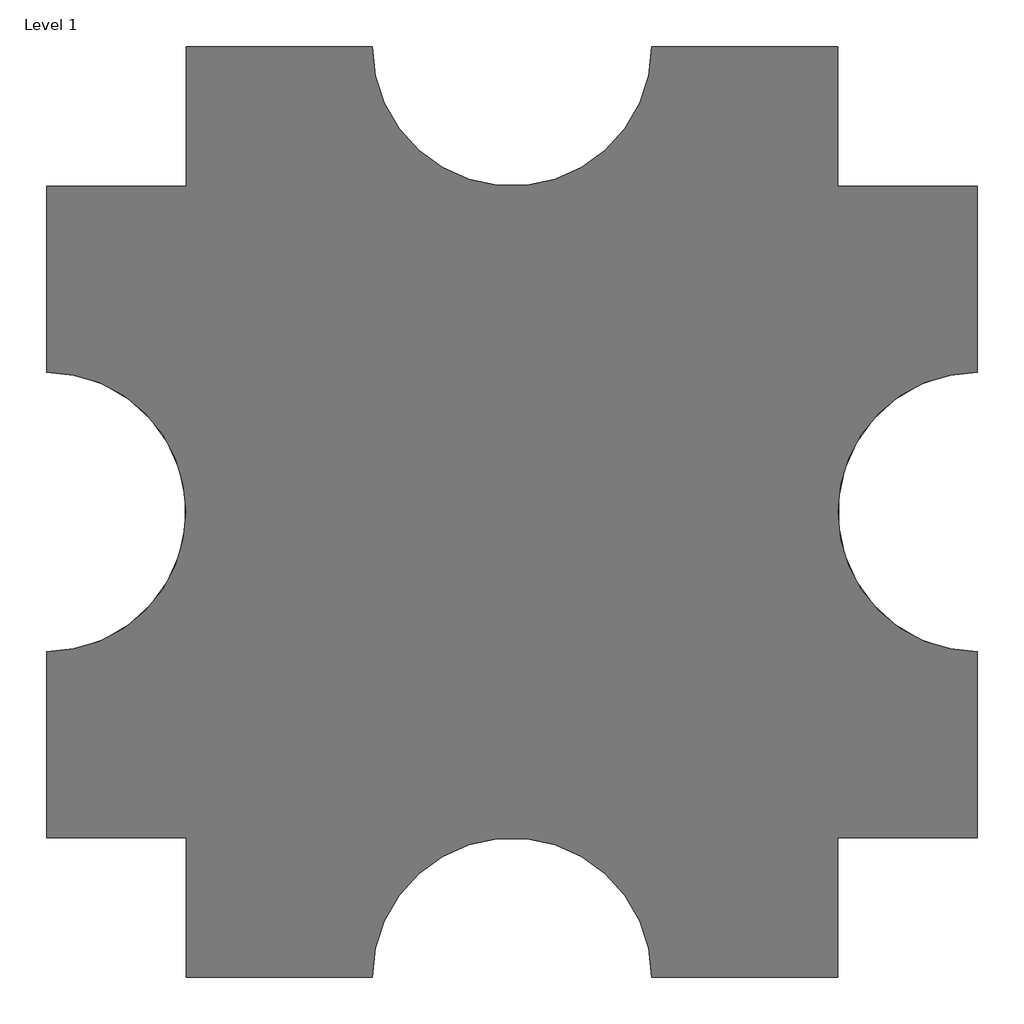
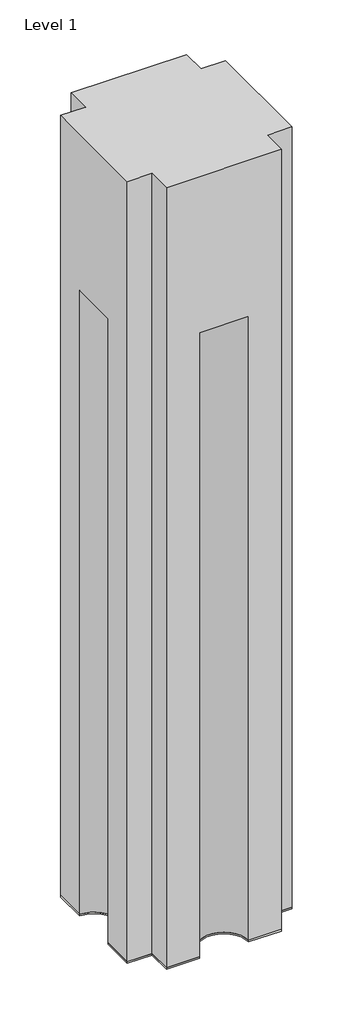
# One storey: 1 proxy, 1 slab.
"""IFC4 building model written with IfcOpenShell, lengths in millimetres."""

from ifc_helpers import new_model, si_unit, point, frame, frame_2d, origin, place, context, project, spatial, polyline, circle_curve, trimmed, segment, composite_curve, outline, extrude, element, save
from ifc_brep_helpers import plane_surface, revolved_surface, advanced_brep

model = new_model("IFC4")

# Units and contexts
model_context = context("Model", 3, world=origin())
ifc_project = project(units=[si_unit("LENGTHUNIT", "METRE", prefix="MILLI")], contexts=[model_context])

# Site, building, storey
site = spatial("IfcSite", under=ifc_project)
building = spatial("IfcBuilding", under=site)
storey = spatial("IfcBuildingStorey", under=building, Name="Level 1", Elevation=0.0)

# Proxy
placement = place(None, origin())
element("IfcBuildingElementProxy", 1, Name="Mass 1 : Mass 1", ObjectType="Mass 1 : Mass 1", at=placement, inside=storey, context=model_context, shape_type="AdvancedBrep", body=[
    advanced_brep(
    [(-7150.3629456, 4479.6634547, 152400.0), (-11722.3629456, 4479.6634547, 152400.0), (-11722.3629456, -16856.3365453, 152400.0), (-7150.3629456, -16856.3365453, 152400.0), (-7150.3629456, -21428.3365453, 152400.0), (14185.6370544, -21428.3365453, 152400.0), (14185.6370544, -16856.3365453, 152400.0), (18757.6370544, -16856.3365453, 152400.0), (18757.6370544, 4479.6634547, 152400.0), (14185.6370544, 4479.6634547, 152400.0), (14185.6370544, 9051.6634547, 152400.0), (-7150.3629456, 9051.6634547, 152400.0), (-7150.3629456, 4479.6634547, 0.0), (-7150.3629456, 9051.6634547, 0.0), (-1054.3629456, 9051.6634547, 0.0), (8089.6370544, 9051.6634547, 0.0), (14185.6370544, 9051.6634547, 0.0), (14185.6370544, 4479.6634547, 0.0), (18757.6370544, 4479.6634547, 0.0), (18757.6370544, -1616.3365453, 0.0), (18757.6370544, -10760.3365453, 0.0), (18757.6370544, -16856.3365453, 0.0), (14185.6370544, -16856.3365453, 0.0), (14185.6370544, -21428.3365453, 0.0), (8089.6370544, -21428.3365453, 0.0), (-1054.3629456, -21428.3365453, 0.0), (-7150.3629456, -21428.3365453, 0.0), (-7150.3629456, -16856.3365453, 0.0), (-11722.3629456, -16856.3365453, 0.0), (-11722.3629456, -10760.3365453, 0.0), (-11722.3629456, -1616.3365453, 0.0), (-11722.3629456, 4479.6634547, 0.0), (-11722.3629456, -1616.3365453, 121920.0), (-11722.3629456, -10760.3365453, 121920.0), (-1054.3629456, -21428.3365453, 121920.0), (8089.6370544, -21428.3365453, 121920.0), (18757.6370544, -10760.3365453, 121920.0), (18757.6370544, -1616.3365453, 121920.0), (8089.6370544, 9051.6634547, 121920.0), (-1054.3629456, 9051.6634547, 121920.0)],
    [
        (0, 1),
        (1, 2),
        (2, 3),
        (3, 4),
        (4, 5),
        (5, 6),
        (6, 7),
        (7, 8),
        (8, 9),
        (9, 10),
        (10, 11),
        (11, 0),
        (12, 13),
        (13, 14),
        (14, 15, circle_curve(frame((3517.6370544, 9051.6634547, 0.0), z_axis=(0.0, 0.0, 1.0), x_axis=(0.0, 1.0, 0.0)), 4572.0)),
        (15, 16),
        (16, 17),
        (17, 18),
        (18, 19),
        (19, 20, circle_curve(frame((18757.6370544, -6188.3365453, 0.0), z_axis=(0.0, 0.0, 1.0), x_axis=(1.0, 0.0, 0.0)), 4572.0)),
        (20, 21),
        (21, 22),
        (22, 23),
        (23, 24),
        (24, 25, circle_curve(frame((3517.6370544, -21428.3365453, 0.0), z_axis=(0.0, 0.0, 1.0), x_axis=(0.0, -1.0, 0.0)), 4572.0)),
        (25, 26),
        (26, 27),
        (27, 28),
        (28, 29),
        (29, 30, circle_curve(frame((-11722.3629456, -6188.3365453, 0.0), z_axis=(0.0, 0.0, 1.0), x_axis=(-1.0, 0.0, 0.0)), 4572.0)),
        (30, 31),
        (31, 12),
        (0, 12),
        (31, 1),
        (30, 32),
        (32, 33),
        (33, 29),
        (28, 2),
        (27, 3),
        (26, 4),
        (25, 34),
        (34, 35),
        (35, 24),
        (23, 5),
        (22, 6),
        (21, 7),
        (20, 36),
        (36, 37),
        (37, 19),
        (18, 8),
        (17, 9),
        (16, 10),
        (15, 38),
        (38, 39),
        (39, 14),
        (13, 11),
        (36, 37, circle_curve(frame((18757.6370544, -6188.3365453, 121920.0), z_axis=(0.0, 0.0, -1.0), x_axis=(1.0, 0.0, 0.0)), 4572.0)),
        (34, 35, circle_curve(frame((3517.6370544, -21428.3365453, 121920.0), z_axis=(0.0, 0.0, -1.0), x_axis=(0.0, -1.0, 0.0)), 4572.0)),
        (38, 39, circle_curve(frame((3517.6370544, 9051.6634547, 121920.0), z_axis=(0.0, 0.0, -1.0), x_axis=(0.0, 1.0, 0.0)), 4572.0)),
        (32, 33, circle_curve(frame((-11722.3629456, -6188.3365453, 121920.0), z_axis=(0.0, 0.0, -1.0), x_axis=(-1.0, 0.0, 0.0)), 4572.0)),
    ],
    [
        plane_surface(frame((-11722.3629456, 4479.6634547, 152400.0), z_axis=(0.0, 0.0, 1.0), x_axis=(-1.0, 0.0, 0.0))),
        plane_surface(frame((-11722.3629456, 4479.6634547, 0.0), z_axis=(0.0, 0.0, -1.0), x_axis=(1.0, 0.0, 0.0))),
        plane_surface(frame((-7150.3629456, 4479.6634547, 152400.0), z_axis=(0.0, 1.0, 0.0), x_axis=(0.0, 0.0, -1.0))),
        plane_surface(frame((-11722.3629456, 4479.6634547, 152400.0), z_axis=(-1.0, 0.0, 0.0), x_axis=(0.0, 0.0, -1.0))),
        plane_surface(frame((-11722.3629456, -16856.3365453, 152400.0), z_axis=(0.0, -1.0, 0.0), x_axis=(0.0, 0.0, -1.0))),
        plane_surface(frame((-7150.3629456, -16856.3365453, 152400.0), z_axis=(-1.0, 0.0, 0.0), x_axis=(0.0, 0.0, -1.0))),
        plane_surface(frame((-7150.3629456, -21428.3365453, 152400.0), z_axis=(0.0, -1.0, 0.0), x_axis=(0.0, 0.0, -1.0))),
        plane_surface(frame((14185.6370544, -21428.3365453, 152400.0), z_axis=(1.0, 0.0, 0.0), x_axis=(0.0, 0.0, -1.0))),
        plane_surface(frame((14185.6370544, -16856.3365453, 152400.0), z_axis=(0.0, -1.0, 0.0), x_axis=(0.0, 0.0, -1.0))),
        plane_surface(frame((18757.6370544, -16856.3365453, 152400.0), z_axis=(1.0, 0.0, 0.0), x_axis=(0.0, 0.0, -1.0))),
        plane_surface(frame((18757.6370544, 4479.6634547, 152400.0), z_axis=(0.0, 1.0, 0.0), x_axis=(0.0, 0.0, -1.0))),
        plane_surface(frame((14185.6370544, 4479.6634547, 152400.0), z_axis=(1.0, 0.0, 0.0), x_axis=(0.0, 0.0, -1.0))),
        plane_surface(frame((14185.6370544, 9051.6634547, 152400.0), z_axis=(0.0, 1.0, 0.0), x_axis=(0.0, 0.0, -1.0))),
        plane_surface(frame((-7150.3629456, 9051.6634547, 152400.0), z_axis=(-1.0, 0.0, 0.0), x_axis=(0.0, 0.0, -1.0))),
        plane_surface(frame((18757.6370544, -10760.3365453, 121920.0), z_axis=(0.0, 0.0, -1.0), x_axis=(0.0, 1.0, 0.0))),
        revolved_surface(polyline([(23329.6370544, -6188.3365453, 121920.0), (23329.6370544, -6188.3365453, 0.0)]), (18757.6370544, -6188.3365453, 0.0), (0.0, 0.0, 1.0)),
        revolved_surface(polyline([(3517.6370544, -26000.3365453, 121920.0), (3517.6370544, -26000.3365453, 0.0)]), (3517.6370544, -21428.3365453, 0.0), (0.0, 0.0, 1.0)),
        revolved_surface(polyline([(3517.6370544, 13623.6634547, 121920.0), (3517.6370544, 13623.6634547, 0.0)]), (3517.6370544, 9051.6634547, 0.0), (0.0, 0.0, 1.0)),
        revolved_surface(polyline([(-16294.3629456, -6188.3365453, 121920.0), (-16294.3629456, -6188.3365453, 0.0)]), (-11722.3629456, -6188.3365453, 0.0), (0.0, 0.0, 1.0)),
    ],
    [
        (0, [[1, 2, 3, 4, 5, 6, 7, 8, 9, 10, 11, 12]]),
        (1, [[13, 14, 15, 16, 17, 18, 19, 20, 21, 22, 23, 24, 25, 26, 27, 28, 29, 30, 31, 32]]),
        (2, [[-1, 33, -32, 34]]),
        (3, [[-2, -34, -31, 35, 36, 37, -29, 38]]),
        (4, [[-3, -38, -28, 39]]),
        (5, [[-4, -39, -27, 40]]),
        (6, [[-5, -40, -26, 41, 42, 43, -24, 44]]),
        (7, [[-6, -44, -23, 45]]),
        (8, [[-7, -45, -22, 46]]),
        (9, [[-8, -46, -21, 47, 48, 49, -19, 50]]),
        (10, [[-9, -50, -18, 51]]),
        (11, [[-10, -51, -17, 52]]),
        (12, [[-11, -52, -16, 53, 54, 55, -14, 56]]),
        (13, [[-12, -56, -13, -33]]),
        (14, [[57, -48]]),
        (14, [[58, -42]]),
        (14, [[59, -54]]),
        (14, [[60, -36]]),
        (15, [[-57, -47, -20, -49]]),
        (16, [[-58, -41, -25, -43]]),
        (17, [[-59, -53, -15, -55]]),
        (18, [[-60, -35, -30, -37]]),
    ],
),
])

# Slab
element("IfcSlab", 2, ObjectType="Generic - 12\"", at=placement, inside=storey, context=model_context, shape_type="SweptSolid", body=[
    extrude(outline(composite_curve([segment(polyline([(-7150.3629456, 4479.6634547), (-7150.3629456, 9051.6634547), (-1054.3629456, 9051.6634547)]), True, "CONTINUOUS"), segment(trimmed(circle_curve(frame_2d((3517.6370544, 9051.6634547)), 4572.0), [point((-1054.3629456, 9051.6634547))], [point((8089.6370544, 9051.6634547))], True, "CARTESIAN"), True, "CONTINUOUS"), segment(polyline([(8089.6370544, 9051.6634547), (14185.6370544, 9051.6634547), (14185.6370544, 4479.6634547), (18757.6370544, 4479.6634547), (18757.6370544, -1616.3365453)]), True, "CONTINUOUS"), segment(trimmed(circle_curve(frame_2d((18757.6370544, -6188.3365453)), 4572.0), [point((18757.6370544, -1616.3365453))], [point((18757.6370544, -10760.3365453))], True, "CARTESIAN"), True, "CONTINUOUS"), segment(polyline([(18757.6370544, -10760.3365453), (18757.6370544, -16856.3365453), (14185.6370544, -16856.3365453), (14185.6370544, -21428.3365453), (8089.6370544, -21428.3365453)]), True, "CONTINUOUS"), segment(trimmed(circle_curve(frame_2d((3517.6370544, -21428.3365453)), 4572.0), [point((8089.6370544, -21428.3365453))], [point((-1054.3629456, -21428.3365453))], True, "CARTESIAN"), True, "CONTINUOUS"), segment(polyline([(-1054.3629456, -21428.3365453), (-7150.3629456, -21428.3365453), (-7150.3629456, -16856.3365453), (-11722.3629456, -16856.3365453), (-11722.3629456, -10760.3365453)]), True, "CONTINUOUS"), segment(trimmed(circle_curve(frame_2d((-11722.3629456, -6188.3365453)), 4572.0), [point((-11722.3629456, -10760.3365453))], [point((-11722.3629456, -1616.3365453))], True, "CARTESIAN"), True, "CONTINUOUS"), segment(polyline([(-11722.3629456, -1616.3365453), (-11722.3629456, 4479.6634547), (-7150.3629456, 4479.6634547)]), True, "CONTINUOUS")], self_intersect=False)), frame((0.0, 0.0, -304.8), z_axis=(0.0, 0.0, 1.0), x_axis=(1.0, 0.0, 0.0)), (0.0, 0.0, 1.0), 304.8),
])

save(model, "model.ifc")
